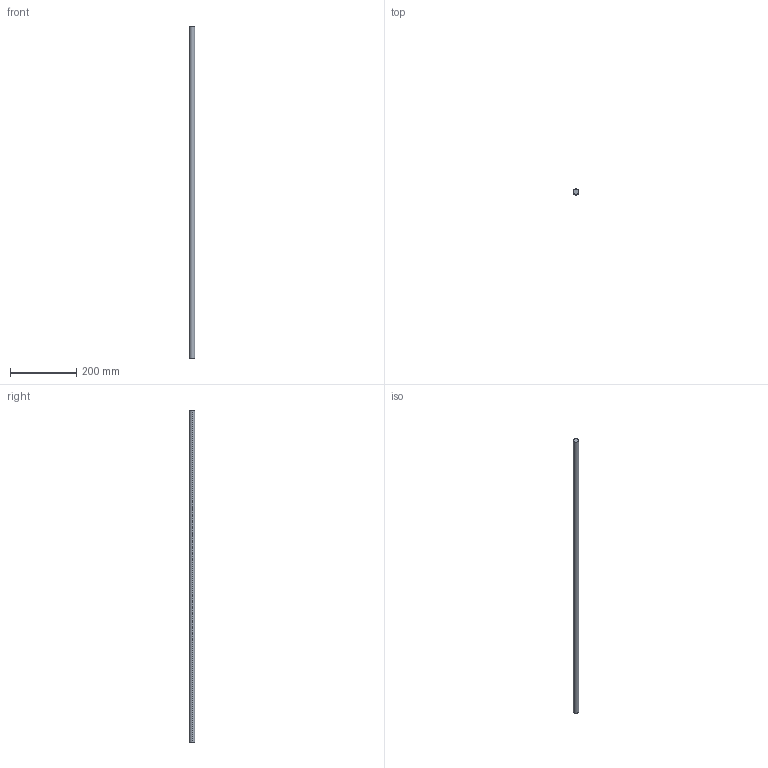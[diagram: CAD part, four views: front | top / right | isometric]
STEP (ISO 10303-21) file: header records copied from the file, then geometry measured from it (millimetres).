
FILE_DESCRIPTION (( 'STEP AP214' ), '1' );
FILE_NAME ('2.5045 Akseli vedetty 17.STEP', '2026-03-03T11:18:44', ( '' ), ( '' ), 'SwSTEP 2.0', 'SolidWorks 2025', '' );
FILE_SCHEMA (( 'AUTOMOTIVE_DESIGN' ));
Length unit declared in the file: millimetre
Products named in the file (1): 2.5045 Akseli vedetty 17
Bounding box: 17 x 17 x 1000 mm (x, y, z)
Volume: 226980.1 mm3; surface area: 53861 mm2
Topology: 1 solids, 1 shells, 4 faces, 6 edges, 4 vertices
Faces by surface type: cylinder 2, plane 2
Entity records: 117 total; most frequent: DIRECTION 20, CARTESIAN_POINT 15, ORIENTED_EDGE 12, AXIS2_PLACEMENT_3D 9, EDGE_CURVE 6, VERTEX_POINT 4, EDGE_LOOP 4, ADVANCED_FACE 4
